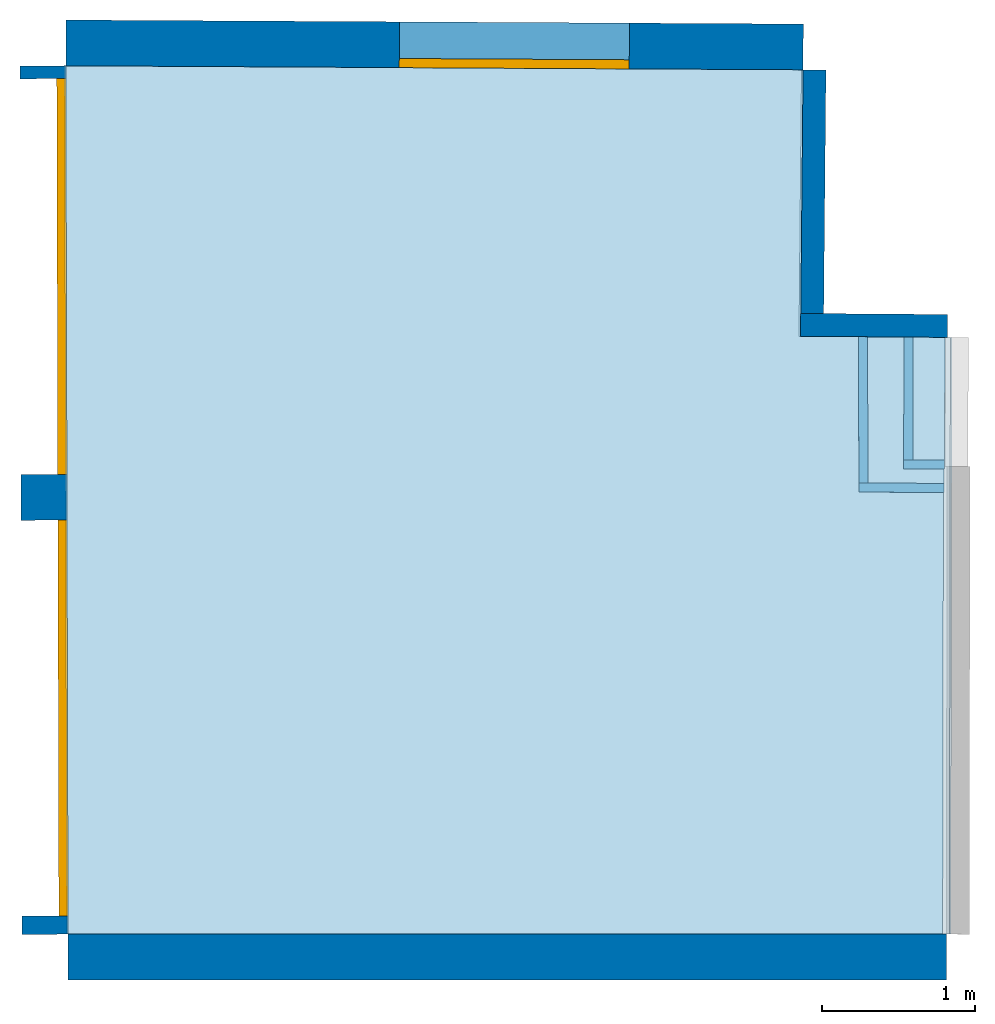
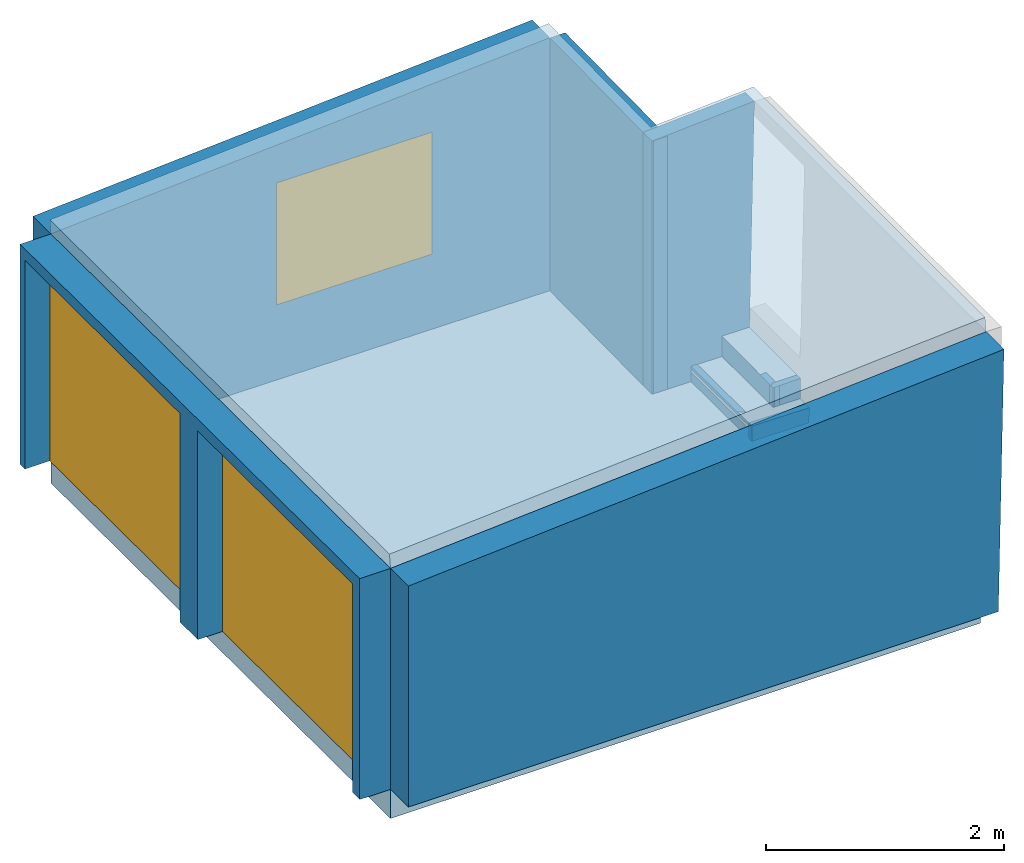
# One storey, incomplete: 9 walls, 3 slabs, 2 doors, 1 roof, 1 window, 3 openings.
"""IFC2X3 building model written with IfcOpenShell, lengths in metres."""

from ifc_helpers import new_model, si_unit, direction, frame, origin_with_axes, place, context, project, spatial, polyline, outline, extrude, element, fill, save


model = new_model("IFC2X3")

# Units and contexts
model_context = context("Model", 3, precision=1e-05, world=origin_with_axes(), true_north=direction((1.0, 0.0, 0.0)))
ifc_project = project(units=[si_unit("AREAUNIT", "SQUARE_METRE"), si_unit("LENGTHUNIT", "METRE"), si_unit("PLANEANGLEUNIT", "RADIAN"), si_unit("VOLUMEUNIT", "CUBIC_METRE")], contexts=[model_context])

# Building, storey
building_placement = place(None, origin_with_axes())
building = spatial("IfcBuilding", under=ifc_project, at=building_placement, Name="Vorführung", CompositionType="ELEMENT")
storey_placement = place(building_placement, origin_with_axes())
storey = spatial("IfcBuildingStorey", under=building, at=storey_placement, Name="600 EG", CompositionType="ELEMENT", Elevation=0.0)

# Slabs
slab_1_placement = place(storey_placement, frame((0.230874, 1.147038, -1.540021), z_axis=(0.0, 0.0, -1.0), x_axis=(-1.0, 0.0, 0.0)))
element("IfcSlab", 1, at=slab_1_placement, inside=storey, Name="Ground", PredefinedType="FLOOR", context=model_context, shape_type="SweptSolid", body=[
    extrude(outline(polyline([(-1.304916, 2.467219, 0.0), (-1.288407, 0.720754, 0.0), (-2.226646, 0.713823, 0.0), (-2.219597, -3.197719, 0.0), (3.512585, -3.197719, 0.0), (3.526982, 2.493641, 0.0), (-1.304916, 2.467219, 0.0)])), origin_with_axes(), (0.0, 0.0, 1.0), 0.3),
])
slab_2_placement = place(storey_placement, frame((2.184906, 1.235598, -1.383498), z_axis=(-0.002374, -0.003245, -0.999992), x_axis=(-0.807008, 0.590541, 0.0)))
element("IfcSlab", 2, at=slab_2_placement, inside=storey, Name="Ground", PredefinedType="FLOOR", context=model_context, shape_type="SweptSolid", body=[
    extrude(outline(polyline([(-0.452611, -0.154639, 1e-06), (-0.36178, -0.030039, 0.0), (-0.148411, -0.186786, 0.0), (0.360453, 0.513407, 0.0), (0.603604, 0.338221, 0.0), (-0.001255, -0.480164, 0.0), (-0.452611, -0.154639, 1e-06)])), origin_with_axes(), (0.0, 0.0, 1.0), 0.06),
])
slab_3_placement = place(storey_placement, frame((2.329947, 1.429632, -1.178544), z_axis=(-0.000165, 0.005119, -0.999987), x_axis=(0.999483, 0.032158, 0.0)))
element("IfcSlab", 3, at=slab_3_placement, inside=storey, Name="Ground", PredefinedType="FLOOR", context=model_context, shape_type="SweptSolid", body=[
    extrude(outline(polyline([(0.119398, 0.435979, 0.0), (-0.149416, 0.427833, 0.0), (-0.118741, -0.437198, 0.0), (0.148759, -0.426614, 1e-06), (0.119398, 0.435979, 0.0)])), origin_with_axes(), (0.0, 0.0, 1.0), 0.06),
])

# Wall, opening, window
wall_1_placement = place(storey_placement, frame((-0.880159, 3.627468, -0.326115), z_axis=(0.005468, 0.999985, 0.0), x_axis=(0.999985, -0.005468, 0.0)))
wall_1 = element("IfcWallStandardCase", 4, at=wall_1_placement, inside=storey, Name="Wall", context=model_context, shape_type="SweptSolid", body=[
    extrude(outline(polyline([(-2.415985, -1.044278, 0.0), (2.415985, -1.383534, 0.0), (2.415985, 1.213906, 0.0), (-2.415986, 1.213906, 0.0), (-2.415985, -1.044278, 0.0)])), origin_with_axes(), (0.0, 0.0, 1.0), 0.3),
])
opening_1_placement = place(storey_placement, frame((-0.357397, 3.62411, -0.14233), z_axis=(0.005468, 0.999985, 0.0), x_axis=(0.999985, -0.005468, 0.0)))
opening_1 = element("IfcOpeningElement", 5, at=opening_1_placement, inside=storey, cuts=wall_1, Name="Opening", ObjectType="Opening", context=model_context, shape_type="SweptSolid", body=[
    extrude(outline(polyline([(0.753558, -0.626286, 0.0), (-0.753558, -0.626286, 0.0), (-0.753558, 0.626286, 0.0), (0.753558, 0.626286, 0.0), (0.753558, -0.626286, 0.0)])), origin_with_axes(), (0.0, 0.0, 1.0), 0.5),
])
window_placement = place(storey_placement, frame((-0.357397, 3.62411, -0.14233), z_axis=(0.005468, 0.999985, 0.0), x_axis=(0.999985, -0.005468, 0.0)))
window = element("IfcWindow", 6, at=window_placement, inside=storey, Name="Window", OverallHeight=1.252572, OverallWidth=1.507116, context=model_context, shape_type="SweptSolid", body=[
    extrude(outline(polyline([(0.753558, -0.626286, 0.0), (-0.753558, -0.626286, 0.0), (-0.753558, 0.626286, 0.0), (0.753558, 0.626286, 0.0), (0.753558, -0.626286, 0.0)])), origin_with_axes(), (0.0, 0.0, 1.0), 0.06),
])
fill(opening_1, window)

# Walls
wall_2_placement = place(storey_placement, frame((1.527536, 2.741025, -0.240821), z_axis=(0.999955, -0.009452, 0.0), x_axis=(-0.009452, -0.999955, 0.0)))
element("IfcWallStandardCase", 7, at=wall_2_placement, inside=storey, Name="Wall", context=model_context, shape_type="SweptSolid", body=[
    extrude(outline(polyline([(0.873272, -1.300159, 0.0), (-0.873272, -1.29824, 1e-06), (-0.873272, 1.2992, 1e-06), (0.873272, 1.2992, 0.0), (0.873272, -1.300159, 0.0)])), origin_with_axes(), (0.0, 0.0, 1.0), 0.15),
])
wall_3_placement = place(storey_placement, frame((2.001971, 1.864226, -0.222919), z_axis=(0.007386, 0.999973, 0.0), x_axis=(0.999973, -0.007386, 0.0)))
element("IfcWallStandardCase", 8, at=wall_3_placement, inside=storey, Name="Wall", context=model_context, shape_type="SweptSolid", body=[
    extrude(outline(polyline([(-0.482703, -1.282256, 0.0), (0.509844, -1.351946, 0.0), (0.455562, 1.317101, 0.0), (-0.482703, 1.317101, 0.0), (-0.482703, -1.282256, 0.0)])), origin_with_axes(), (0.0, 0.0, 1.0), 0.15),
])
wall_4_placement = place(storey_placement, frame((-0.402017, -2.050681, -0.303852), z_axis=(0.0, -1.0, 0.0), x_axis=(-1.0, 0.0, 0.0)))
element("IfcWallStandardCase", 9, at=wall_4_placement, inside=storey, Name="Wall", context=model_context, shape_type="SweptSolid", body=[
    extrude(outline(polyline([(-2.906901, -1.439285, 0.0), (2.879694, -1.033053, 0.0), (2.879695, 1.236169, 0.0), (-2.852488, 1.236169, 1e-06), (-2.906901, -1.439285, 0.0)])), origin_with_axes(), (0.0, 0.0, 1.0), 0.3),
])

# Wall, openings, doors
wall_5_placement = place(storey_placement, frame((-3.28891, 0.794999, -0.408169), z_axis=(-0.999997, -0.00253, 0.0), x_axis=(-0.00253, 0.999997, 0.0)))
wall_5 = element("IfcWallStandardCase", 10, at=wall_5_placement, inside=storey, Name="Wall", context=model_context, shape_type="SweptSolid", body=[
    extrude(outline(polyline([(-2.845689, -1.137371, 0.0), (-2.845689, 1.131852, 0.0), (2.845689, 1.131852, 0.0), (2.845689, -1.126333, 0.0), (-2.845689, -1.137371, 0.0)])), origin_with_axes(), (0.0, 0.0, 1.0), 0.3),
])
opening_2_placement = place(storey_placement, frame((-3.292115, 2.259873, -0.468443), z_axis=(-0.999997, -0.00253, 0.0), x_axis=(-0.00253, 0.999997, 0.0)))
opening_2 = element("IfcOpeningElement", 11, at=opening_2_placement, inside=storey, cuts=wall_5, Name="Opening", ObjectType="Opening", context=model_context, shape_type="SweptSolid", body=[
    extrude(outline(polyline([(1.296278, -1.071578, 0.0), (-1.296278, -1.071578, 0.0), (-1.296278, 1.071578, 0.0), (1.296278, 1.071578, 0.0), (1.296278, -1.071578, 0.0)])), origin_with_axes(), (0.0, 0.0, 1.0), 0.5),
])
opening_3_placement = place(storey_placement, frame((-3.284796, -0.633458, -0.468442), z_axis=(-0.999997, -0.00253, 0.0), x_axis=(-0.00253, 0.999997, 0.0)))
opening_3 = element("IfcOpeningElement", 12, at=opening_3_placement, inside=storey, cuts=wall_5, Name="Opening", ObjectType="Opening", context=model_context, shape_type="SweptSolid", body=[
    extrude(outline(polyline([(1.296278, -1.071578, 0.0), (-1.296278, -1.071578, 0.0), (-1.296278, 1.071578, 0.0), (1.296278, 1.071578, 0.0), (1.296278, -1.071578, 0.0)])), origin_with_axes(), (0.0, 0.0, 1.0), 0.5),
])
door_1_placement = place(storey_placement, frame((-3.292115, 2.259873, -0.468443), z_axis=(-0.999997, -0.00253, 0.0), x_axis=(-0.00253, 0.999997, 0.0)))
door_1 = element("IfcDoor", 13, at=door_1_placement, inside=storey, Name="Door", OverallHeight=2.143157, OverallWidth=2.592556, context=model_context, shape_type="SweptSolid", body=[
    extrude(outline(polyline([(1.296278, -1.071578, 0.0), (-1.296278, -1.071578, 0.0), (-1.296278, 1.071578, 0.0), (1.296278, 1.071578, 0.0), (1.296278, -1.071578, 0.0)])), origin_with_axes(), (0.0, 0.0, 1.0), 0.06),
])
fill(opening_2, door_1)
door_2_placement = place(storey_placement, frame((-3.284796, -0.633458, -0.468442), z_axis=(-0.999997, -0.00253, 0.0), x_axis=(-0.00253, 0.999997, 0.0)))
door_2 = element("IfcDoor", 14, at=door_2_placement, inside=storey, Name="Door", OverallHeight=2.143157, OverallWidth=2.592556, context=model_context, shape_type="SweptSolid", body=[
    extrude(outline(polyline([(1.296278, -1.071578, 0.0), (-1.296278, -1.071578, 0.0), (-1.296278, 1.071578, 0.0), (1.296278, 1.071578, 0.0), (1.296278, -1.071578, 0.0)])), origin_with_axes(), (0.0, 0.0, 1.0), 0.06),
])
fill(opening_3, door_2)

# Walls
wall_6_placement = place(storey_placement, frame((2.179815, 0.845445, -1.461846), z_axis=(0.006905, 0.999976, 0.0), x_axis=(0.999976, -0.006905, 0.0)))
element("IfcWallStandardCase", 15, at=wall_6_placement, inside=storey, Name="Wall", context=model_context, shape_type="SweptSolid", body=[
    extrude(outline(polyline([(-0.277457, -0.079287, 0.0), (0.279035, -0.077063, 0.0), (0.275879, 0.078175, 0.0), (-0.277457, 0.078175, 0.0), (-0.277457, -0.079287, 0.0)])), origin_with_axes(), (0.0, 0.0, 1.0), 0.06),
])
wall_7_placement = place(storey_placement, frame((1.899947, 1.356179, -1.461161), z_axis=(0.999989, 0.004751, 0.0), x_axis=(0.004751, -0.999989, 0.0)))
element("IfcWallStandardCase", 16, at=wall_7_placement, inside=storey, Name="Wall", context=model_context, shape_type="SweptSolid", body=[
    extrude(outline(polyline([(-0.508824, -0.079116, 0.0), (-0.508824, 0.078859, 0.0), (0.508824, 0.078859, 1e-06), (0.508824, -0.078603, 0.0), (-0.508824, -0.079116, 0.0)])), origin_with_axes(), (0.0, 0.0, 1.0), 0.06),
])
wall_8_placement = place(storey_placement, frame((2.195788, 1.430001, -1.281289), z_axis=(0.999995, -0.003277, 0.0), x_axis=(-0.003277, -0.999995, 0.0)))
element("IfcWallStandardCase", 17, at=wall_8_placement, inside=storey, Name="Wall", context=model_context, shape_type="SweptSolid", body=[
    extrude(outline(polyline([(0.432785, 0.102363, 0.0), (0.432785, -0.101008, 0.0), (-0.432785, -0.103309, 0.0), (-0.432785, 0.101954, 0.0), (0.432785, 0.102363, 0.0)])), origin_with_axes(), (0.0, 0.0, 1.0), 0.06),
])
wall_9_placement = place(storey_placement, frame((2.327792, 0.997467, -1.281936), z_axis=(-0.001862, 0.999998, 0.0), x_axis=(0.999998, 0.001862, 0.0)))
element("IfcWallStandardCase", 18, at=wall_9_placement, inside=storey, Name="Wall", context=model_context, shape_type="SweptSolid", body=[
    extrude(outline(polyline([(-0.133422, -0.101655, 0.0), (0.135513, -0.102835, 0.0), (0.131332, 0.102773, 0.0), (-0.133422, 0.101716, 0.0), (-0.133422, -0.101655, 0.0)])), origin_with_axes(), (0.0, 0.0, 1.0), 0.06),
])

# Roof
roof_placement = place(storey_placement, frame((0.248989, 1.146971, 0.97143), z_axis=(-0.07003, 0.001758, 0.997543), x_axis=(0.025089, 0.999685, 0.0)))
element("IfcRoof", 19, at=roof_placement, inside=storey, Name="Roof", ShapeType="NOTDEFINED", context=model_context, shape_type="SweptSolid", body=[
    extrude(outline(polyline([(-3.285229, 3.457856, 0.0), (-3.140047, -2.341164, 0.0), (0.770037, -2.249725, 0.0), (0.752465, -1.25489, 0.0), (2.498795, -1.227508, 0.0), (2.403979, 3.61543, 0.0), (-3.285229, 3.457856, 0.0)])), origin_with_axes(), (0.0, 0.0, 1.0), 0.15),
])

save(model, "model.ifc")
